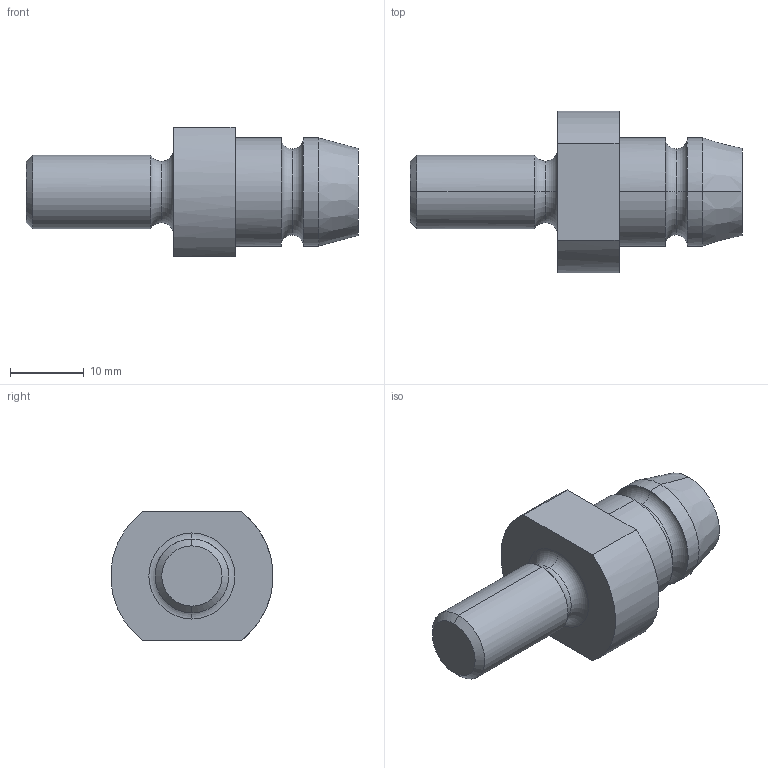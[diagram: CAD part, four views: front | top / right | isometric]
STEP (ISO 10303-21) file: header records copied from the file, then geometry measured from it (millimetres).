
FILE_DESCRIPTION(('CATIA V5 STEP Exchange'),'2;1');
FILE_NAME('C:\Users\Utente\Desktop\IO LAVORO\3D X SITO CF\X SITO\PLASTICA\AGS\AGS3301M10.stp','2021-02-21T19:07:45+00:00',('none'),('none'),'CATIA Version 5 Release 20 GA (IN-10)','CATIA V5 STEP AP203','none');
FILE_SCHEMA(('CONFIG_CONTROL_DESIGN'));
Length unit declared in the file: millimetre
Products named in the file (1): AGS3301M10
Bounding box: 45 x 21.95 x 17.6 mm (x, y, z)
Volume: 6851.3 mm3; surface area: 2595.7 mm2
Topology: 1 solids, 1 shells, 26 faces, 70 edges, 48 vertices
Faces by surface type: cylinder 8, torus 8, plane 6, cone 4
Entity records: 926 total; most frequent: CARTESIAN_POINT 245, ORIENTED_EDGE 140, DIRECTION 111, EDGE_CURVE 70, AXIS2_PLACEMENT_3D 68, VERTEX_POINT 48, CIRCLE 41, EDGE_LOOP 28
